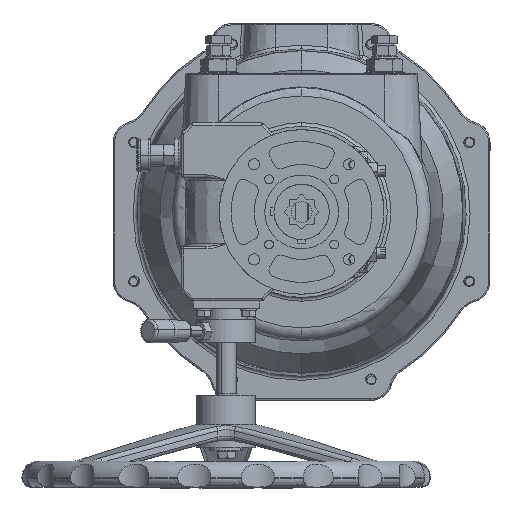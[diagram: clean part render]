
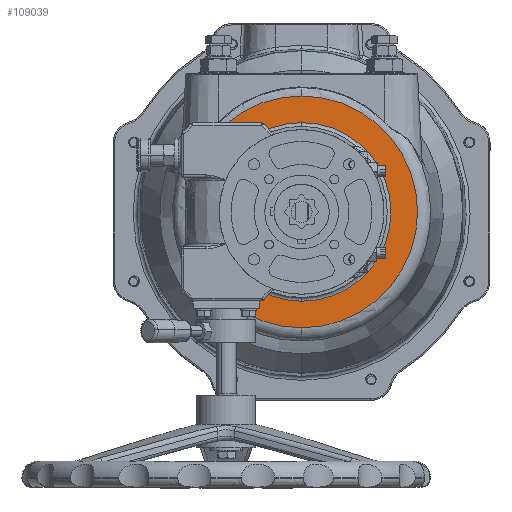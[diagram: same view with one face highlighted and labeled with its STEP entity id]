
A CAD part, front view. The second image highlights one B-rep face of the part: STEP entity #109039.
In plain terms, the highlighted planar face has unit normal (0, -1, 0).
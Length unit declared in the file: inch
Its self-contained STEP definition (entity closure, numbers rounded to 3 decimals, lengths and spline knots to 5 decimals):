
#760 = EDGE_LOOP ( 'NONE', ( #106148, #5713 ) ) ;
#912 = CARTESIAN_POINT ( 'NONE',  ( 7.08271, 1.75067, 3.15245 ) ) ;
#1560 = CIRCLE ( 'NONE', #76318, 3.46465 ) ;
#5713 = ORIENTED_EDGE ( 'NONE', *, *, #59043, .T. ) ;
#10542 = VERTEX_POINT ( 'NONE', #15818 ) ;
#14334 = CARTESIAN_POINT ( 'NONE',  ( 7.08271, 1.75067, 3.94807 ) ) ;
#14835 = FACE_OUTER_BOUND ( 'NONE', #760, .T. ) ;
#15676 = EDGE_CURVE ( 'NONE', #50083, #53057, #21139, .T. ) ;
#15818 = CARTESIAN_POINT ( 'NONE',  ( 7.08271, 1.75067, 10.08176 ) ) ;
#16720 = CARTESIAN_POINT ( 'NONE',  ( 7.08271, 1.75067, 6.61711 ) ) ;
#21139 = CIRCLE ( 'NONE', #86610, 2.66904 ) ;
#32354 = DIRECTION ( 'NONE',  ( 0., 1., 0. ) ) ;
#34727 = EDGE_LOOP ( 'NONE', ( #85940, #87065 ) ) ;
#34948 = AXIS2_PLACEMENT_3D ( 'NONE', #76368, #32354, #85161 ) ;
#37830 = DIRECTION ( 'NONE',  ( 0., 0., -1. ) ) ;
#40055 = CIRCLE ( 'NONE', #85027, 2.66904 ) ;
#41158 = PLANE ( 'NONE',  #34948 ) ;
#44861 = DIRECTION ( 'NONE',  ( 0., -1., 0. ) ) ;
#50083 = VERTEX_POINT ( 'NONE', #84321 ) ;
#52412 = DIRECTION ( 'NONE',  ( 0., 1., 0. ) ) ;
#53057 = VERTEX_POINT ( 'NONE', #14334 ) ;
#59043 = EDGE_CURVE ( 'NONE', #10542, #105457, #1560, .T. ) ;
#65956 = DIRECTION ( 'NONE',  ( 0., -1., 0. ) ) ;
#70661 = DIRECTION ( 'NONE',  ( 0., 0., -1. ) ) ;
#76318 = AXIS2_PLACEMENT_3D ( 'NONE', #100554, #65956, #37830 ) ;
#76368 = CARTESIAN_POINT ( 'NONE',  ( 10.54737, 1.75067, 6.61711 ) ) ;
#76549 = DIRECTION ( 'NONE',  ( 0., 0., 1. ) ) ;
#84321 = CARTESIAN_POINT ( 'NONE',  ( 7.08271, 1.75067, 9.28614 ) ) ;
#85027 = AXIS2_PLACEMENT_3D ( 'NONE', #85358, #95806, #76549 ) ;
#85161 = DIRECTION ( 'NONE',  ( 0., 0., 1. ) ) ;
#85358 = CARTESIAN_POINT ( 'NONE',  ( 7.08271, 1.75067, 6.61711 ) ) ;
#85940 = ORIENTED_EDGE ( 'NONE', *, *, #15676, .T. ) ;
#86610 = AXIS2_PLACEMENT_3D ( 'NONE', #16720, #52412, #88212 ) ;
#87065 = ORIENTED_EDGE ( 'NONE', *, *, #90598, .T. ) ;
#88212 = DIRECTION ( 'NONE',  ( 0., 0., 1. ) ) ;
#88892 = CIRCLE ( 'NONE', #94423, 3.46465 ) ;
#90598 = EDGE_CURVE ( 'NONE', #53057, #50083, #40055, .T. ) ;
#94423 = AXIS2_PLACEMENT_3D ( 'NONE', #106898, #44861, #70661 ) ;
#95052 = FACE_BOUND ( 'NONE', #34727, .T. ) ;
#95806 = DIRECTION ( 'NONE',  ( 0., 1., 0. ) ) ;
#100554 = CARTESIAN_POINT ( 'NONE',  ( 7.08271, 1.75067, 6.61711 ) ) ;
#105457 = VERTEX_POINT ( 'NONE', #912 ) ;
#106005 = EDGE_CURVE ( 'NONE', #105457, #10542, #88892, .T. ) ;
#106148 = ORIENTED_EDGE ( 'NONE', *, *, #106005, .T. ) ;
#106898 = CARTESIAN_POINT ( 'NONE',  ( 7.08271, 1.75067, 6.61711 ) ) ;
#109039 = ADVANCED_FACE ( 'NONE', ( #95052, #14835 ), #41158, .F. ) ;
